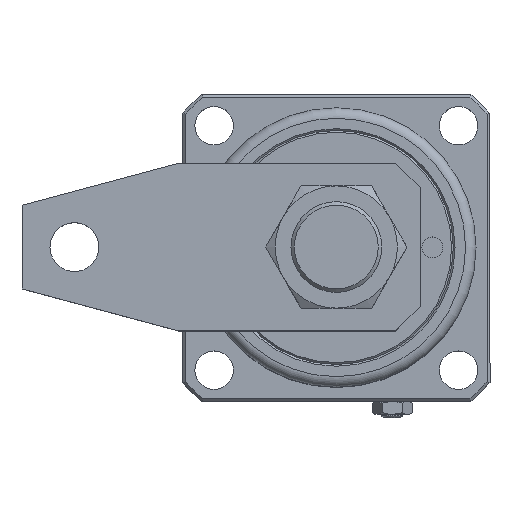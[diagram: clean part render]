
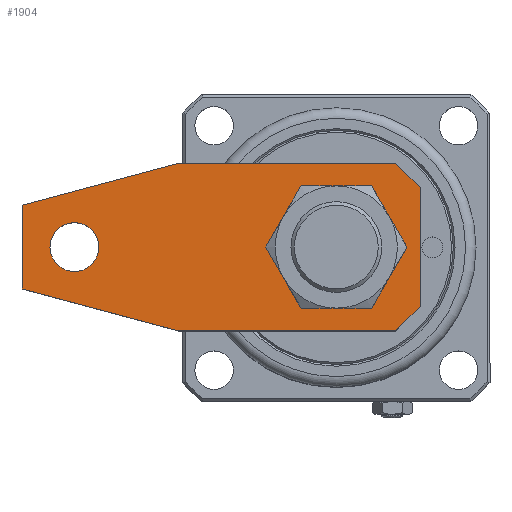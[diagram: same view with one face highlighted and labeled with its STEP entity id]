
A CAD part, top view. The second image highlights one B-rep face of the part: STEP entity #1904.
In plain terms, the highlighted planar face has unit normal (0, 0, 1).
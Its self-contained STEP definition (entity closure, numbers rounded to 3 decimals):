
#249=CIRCLE('',#2465,7.);
#250=CIRCLE('',#2466,13.5);
#765=ORIENTED_EDGE('',*,*,#1026,.F.);
#766=ORIENTED_EDGE('',*,*,#1027,.F.);
#767=ORIENTED_EDGE('',*,*,#1000,.T.);
#768=ORIENTED_EDGE('',*,*,#1004,.T.);
#769=ORIENTED_EDGE('',*,*,#1007,.T.);
#770=ORIENTED_EDGE('',*,*,#1010,.T.);
#771=ORIENTED_EDGE('',*,*,#1013,.T.);
#772=ORIENTED_EDGE('',*,*,#1016,.T.);
#773=ORIENTED_EDGE('',*,*,#1019,.T.);
#774=ORIENTED_EDGE('',*,*,#1022,.T.);
#1000=EDGE_CURVE('',#1179,#1180,#1245,.T.);
#1004=EDGE_CURVE('',#1180,#1183,#1249,.T.);
#1007=EDGE_CURVE('',#1183,#1185,#1252,.T.);
#1010=EDGE_CURVE('',#1185,#1187,#1255,.T.);
#1013=EDGE_CURVE('',#1187,#1189,#1258,.T.);
#1016=EDGE_CURVE('',#1189,#1191,#1261,.T.);
#1019=EDGE_CURVE('',#1191,#1193,#1264,.T.);
#1022=EDGE_CURVE('',#1193,#1179,#1267,.T.);
#1026=EDGE_CURVE('',#1197,#1197,#249,.T.);
#1027=EDGE_CURVE('',#1198,#1198,#250,.T.);
#1179=VERTEX_POINT('',#3882);
#1180=VERTEX_POINT('',#3883);
#1183=VERTEX_POINT('',#3891);
#1185=VERTEX_POINT('',#3897);
#1187=VERTEX_POINT('',#3903);
#1189=VERTEX_POINT('',#3909);
#1191=VERTEX_POINT('',#3915);
#1193=VERTEX_POINT('',#3921);
#1197=VERTEX_POINT('',#3935);
#1198=VERTEX_POINT('',#3937);
#1245=LINE('',#3881,#1313);
#1249=LINE('',#3890,#1317);
#1252=LINE('',#3896,#1320);
#1255=LINE('',#3902,#1323);
#1258=LINE('',#3908,#1326);
#1261=LINE('',#3914,#1329);
#1264=LINE('',#3920,#1332);
#1267=LINE('',#3926,#1335);
#1313=VECTOR('',#2904,1000.);
#1317=VECTOR('',#2910,1000.);
#1320=VECTOR('',#2915,1000.);
#1323=VECTOR('',#2920,1000.);
#1326=VECTOR('',#2925,1000.);
#1329=VECTOR('',#2930,1000.);
#1332=VECTOR('',#2935,1000.);
#1335=VECTOR('',#2940,1000.);
#1518=EDGE_LOOP('',(#765));
#1519=EDGE_LOOP('',(#766));
#1520=EDGE_LOOP('',(#767,#768,#769,#770,#771,#772,#773,#774));
#1710=FACE_BOUND('',#1518,.T.);
#1711=FACE_BOUND('',#1519,.T.);
#1712=FACE_BOUND('',#1520,.T.);
#1776=PLANE('',#2464);
#1904=ADVANCED_FACE('',(#1710,#1711,#1712),#1776,.F.);
#2464=AXIS2_PLACEMENT_3D('',#3933,#2948,#2949);
#2465=AXIS2_PLACEMENT_3D('',#3934,#2950,#2951);
#2466=AXIS2_PLACEMENT_3D('',#3936,#2952,#2953);
#2904=DIRECTION('',(-0.707,0.707,0.));
#2910=DIRECTION('',(-1.,0.,0.));
#2915=DIRECTION('',(-0.966,-0.259,0.));
#2920=DIRECTION('',(0.,-1.,0.));
#2925=DIRECTION('',(0.966,-0.259,0.));
#2930=DIRECTION('',(1.,0.,0.));
#2935=DIRECTION('',(0.707,0.707,0.));
#2940=DIRECTION('',(0.,1.,0.));
#2948=DIRECTION('',(0.,0.,-1.));
#2949=DIRECTION('',(0.,1.,0.));
#2950=DIRECTION('',(0.,0.,1.));
#2951=DIRECTION('',(1.,0.,0.));
#2952=DIRECTION('',(0.,0.,1.));
#2953=DIRECTION('',(1.,0.,0.));
#3881=CARTESIAN_POINT('',(57.,41.,11.5));
#3882=CARTESIAN_POINT('',(57.,41.,11.5));
#3883=CARTESIAN_POINT('',(50.,48.,11.5));
#3890=CARTESIAN_POINT('',(50.,48.,11.5));
#3891=CARTESIAN_POINT('',(-12.215,48.,11.5));
#3896=CARTESIAN_POINT('',(-57.,36.,11.5));
#3897=CARTESIAN_POINT('',(-57.,36.,11.5));
#3902=CARTESIAN_POINT('',(-57.,36.,11.5));
#3903=CARTESIAN_POINT('',(-57.,12.,11.5));
#3908=CARTESIAN_POINT('',(-57.,12.,11.5));
#3909=CARTESIAN_POINT('',(-12.215,0.,11.5));
#3914=CARTESIAN_POINT('',(-12.215,0.,11.5));
#3915=CARTESIAN_POINT('',(50.,0.,11.5));
#3920=CARTESIAN_POINT('',(57.,7.,11.5));
#3921=CARTESIAN_POINT('',(57.,7.,11.5));
#3926=CARTESIAN_POINT('',(57.,7.,11.5));
#3933=CARTESIAN_POINT('',(0.,0.,11.5));
#3934=CARTESIAN_POINT('',(-42.,24.,11.5));
#3935=CARTESIAN_POINT('',(-35.,24.,11.5));
#3936=CARTESIAN_POINT('',(33.,24.,11.5));
#3937=CARTESIAN_POINT('',(46.5,24.,11.5));
